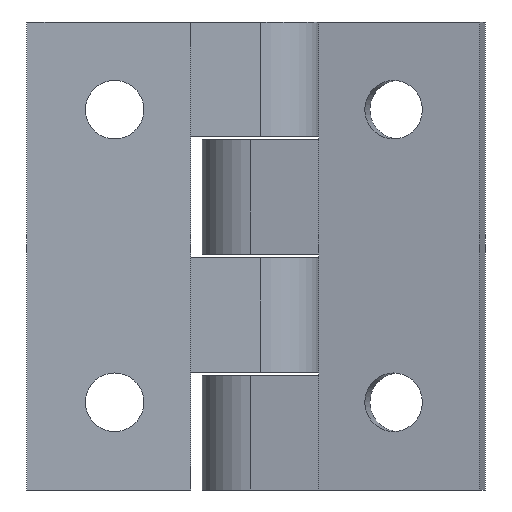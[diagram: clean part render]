
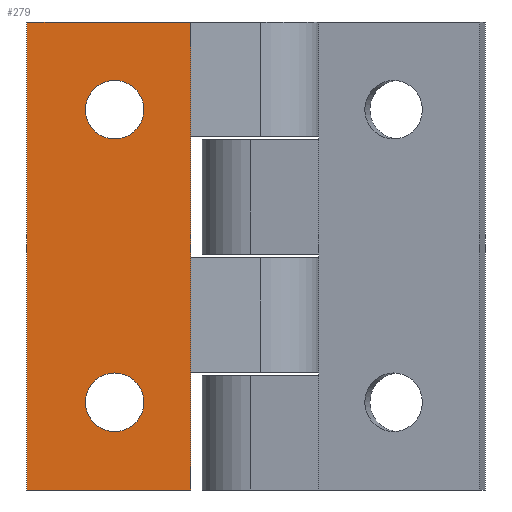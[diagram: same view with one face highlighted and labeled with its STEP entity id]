
A CAD part, front view. The second image highlights one B-rep face of the part: STEP entity #279.
In plain terms, the highlighted planar face has unit normal (0, -1, 0).
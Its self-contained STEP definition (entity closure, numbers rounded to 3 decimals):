
#59 = VERTEX_POINT ( 'NONE', #596 ) ;
#66 = EDGE_CURVE ( 'NONE', #69, #72, #582, .T. ) ;
#69 = VERTEX_POINT ( 'NONE', #637 ) ;
#72 = VERTEX_POINT ( 'NONE', #636 ) ;
#125 = VERTEX_POINT ( 'NONE', #720 ) ;
#126 = EDGE_CURVE ( 'NONE', #125, #127, #719, .T. ) ;
#127 = VERTEX_POINT ( 'NONE', #714 ) ;
#279 = ADVANCED_FACE ( 'NONE', ( #1068, #1067, #1066 ), #1065, .F. ) ;
#288 = EDGE_LOOP ( 'NONE', ( #314, #289, #292, #331 ) ) ;
#289 = ORIENTED_EDGE ( 'NONE', *, *, #290, .F. ) ;
#290 = EDGE_CURVE ( 'NONE', #291, #313, #1109, .T. ) ;
#291 = VERTEX_POINT ( 'NONE', #1105 ) ;
#292 = ORIENTED_EDGE ( 'NONE', *, *, #293, .F. ) ;
#293 = EDGE_CURVE ( 'NONE', #320, #291, #1104, .T. ) ;
#295 = EDGE_CURVE ( 'NONE', #127, #125, #1100, .T. ) ;
#301 = ORIENTED_EDGE ( 'NONE', *, *, #126, .F. ) ;
#313 = VERTEX_POINT ( 'NONE', #1130 ) ;
#314 = ORIENTED_EDGE ( 'NONE', *, *, #353, .T. ) ;
#319 = EDGE_CURVE ( 'NONE', #320, #59, #1124, .T. ) ;
#320 = VERTEX_POINT ( 'NONE', #1120 ) ;
#331 = ORIENTED_EDGE ( 'NONE', *, *, #319, .T. ) ;
#336 = ORIENTED_EDGE ( 'NONE', *, *, #348, .F. ) ;
#347 = EDGE_LOOP ( 'NONE', ( #336, #352 ) ) ;
#348 = EDGE_CURVE ( 'NONE', #72, #69, #1203, .T. ) ;
#352 = ORIENTED_EDGE ( 'NONE', *, *, #66, .F. ) ;
#353 = EDGE_CURVE ( 'NONE', #59, #313, #1194, .T. ) ;
#358 = EDGE_LOOP ( 'NONE', ( #359, #301 ) ) ;
#359 = ORIENTED_EDGE ( 'NONE', *, *, #295, .F. ) ;
#578 = DIRECTION ( 'NONE',  ( 1., 0., 0. ) ) ;
#579 = DIRECTION ( 'NONE',  ( 0., -1., 0. ) ) ;
#580 = CARTESIAN_POINT ( 'NONE',  ( -12.5, -5.5, 7.5 ) ) ;
#581 = AXIS2_PLACEMENT_3D ( 'NONE', #580, #579, #578 ) ;
#582 = CIRCLE ( 'NONE', #581, 2.5 ) ;
#596 = CARTESIAN_POINT ( 'NONE',  ( -20., -5.5, 0. ) ) ;
#636 = CARTESIAN_POINT ( 'NONE',  ( -10., -5.5, 7.5 ) ) ;
#637 = CARTESIAN_POINT ( 'NONE',  ( -15., -5.5, 7.5 ) ) ;
#714 = CARTESIAN_POINT ( 'NONE',  ( -10., -5.5, 32.5 ) ) ;
#715 = DIRECTION ( 'NONE',  ( 1., 0., 0. ) ) ;
#716 = DIRECTION ( 'NONE',  ( 0., -1., 0. ) ) ;
#717 = CARTESIAN_POINT ( 'NONE',  ( -12.5, -5.5, 32.5 ) ) ;
#718 = AXIS2_PLACEMENT_3D ( 'NONE', #717, #716, #715 ) ;
#719 = CIRCLE ( 'NONE', #718, 2.5 ) ;
#720 = CARTESIAN_POINT ( 'NONE',  ( -15., -5.5, 32.5 ) ) ;
#1061 = DIRECTION ( 'NONE',  ( -1., 0., 0. ) ) ;
#1062 = DIRECTION ( 'NONE',  ( 0., 1., 0. ) ) ;
#1063 = CARTESIAN_POINT ( 'NONE',  ( -6., -5.5, 40. ) ) ;
#1064 = AXIS2_PLACEMENT_3D ( 'NONE', #1063, #1062, #1061 ) ;
#1065 = PLANE ( 'NONE',  #1064 ) ;
#1066 = FACE_OUTER_BOUND ( 'NONE', #288, .T. ) ;
#1067 = FACE_BOUND ( 'NONE', #358, .T. ) ;
#1068 = FACE_BOUND ( 'NONE', #347, .T. ) ;
#1096 = DIRECTION ( 'NONE',  ( 1., 0., 0. ) ) ;
#1097 = DIRECTION ( 'NONE',  ( 0., -1., 0. ) ) ;
#1098 = CARTESIAN_POINT ( 'NONE',  ( -12.5, -5.5, 32.5 ) ) ;
#1099 = AXIS2_PLACEMENT_3D ( 'NONE', #1098, #1097, #1096 ) ;
#1100 = CIRCLE ( 'NONE', #1099, 2.5 ) ;
#1101 = DIRECTION ( 'NONE',  ( 1., 0., 0. ) ) ;
#1102 = VECTOR ( 'NONE', #1101, 1000. ) ;
#1103 = CARTESIAN_POINT ( 'NONE',  ( -6., -5.5, 40. ) ) ;
#1104 = LINE ( 'NONE', #1103, #1102 ) ;
#1105 = CARTESIAN_POINT ( 'NONE',  ( -6., -5.5, 40. ) ) ;
#1106 = DIRECTION ( 'NONE',  ( 0., 0., -1. ) ) ;
#1107 = VECTOR ( 'NONE', #1106, 1000. ) ;
#1108 = CARTESIAN_POINT ( 'NONE',  ( -6., -5.5, 40. ) ) ;
#1109 = LINE ( 'NONE', #1108, #1107 ) ;
#1120 = CARTESIAN_POINT ( 'NONE',  ( -20., -5.5, 40. ) ) ;
#1121 = DIRECTION ( 'NONE',  ( 0., 0., -1. ) ) ;
#1122 = VECTOR ( 'NONE', #1121, 1000. ) ;
#1123 = CARTESIAN_POINT ( 'NONE',  ( -20., -5.5, 40. ) ) ;
#1124 = LINE ( 'NONE', #1123, #1122 ) ;
#1130 = CARTESIAN_POINT ( 'NONE',  ( -6., -5.5, 0. ) ) ;
#1191 = DIRECTION ( 'NONE',  ( 1., 0., 0. ) ) ;
#1192 = VECTOR ( 'NONE', #1191, 1000. ) ;
#1193 = CARTESIAN_POINT ( 'NONE',  ( -6., -5.5, 0. ) ) ;
#1194 = LINE ( 'NONE', #1193, #1192 ) ;
#1199 = DIRECTION ( 'NONE',  ( 1., 0., 0. ) ) ;
#1200 = DIRECTION ( 'NONE',  ( 0., -1., 0. ) ) ;
#1201 = CARTESIAN_POINT ( 'NONE',  ( -12.5, -5.5, 7.5 ) ) ;
#1202 = AXIS2_PLACEMENT_3D ( 'NONE', #1201, #1200, #1199 ) ;
#1203 = CIRCLE ( 'NONE', #1202, 2.5 ) ;
